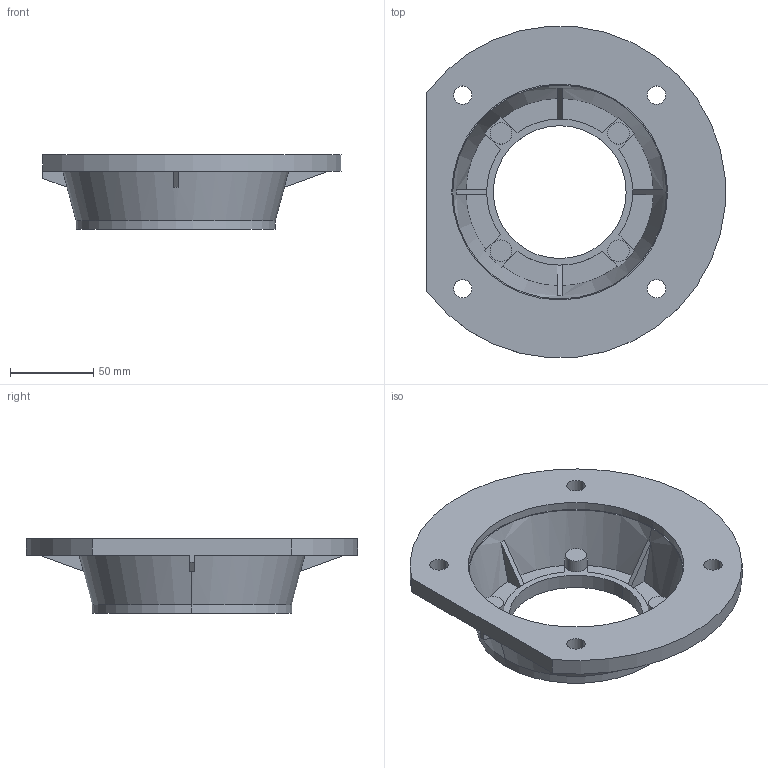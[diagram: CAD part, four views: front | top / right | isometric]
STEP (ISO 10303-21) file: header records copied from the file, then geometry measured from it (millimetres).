
FILE_DESCRIPTION(/* description */ (''),/* implementation_level */ '2;1');
FILE_NAME(/* name */ '3_FLANGIA (CAMPANA) LATERALE FC BA52',/* time_stamp */ '2025-10-22T11:44:03+02:00',/* author */ (''),/* organization */ (''),/* preprocessor_version */ 'ST-DEVELOPER v19.2',/* originating_system */ 'Rhino 8.23',/* authorisation */ '');
FILE_SCHEMA (('CONFIG_CONTROL_DESIGN'));
Length unit declared in the file: millimetre
Products named in the file (2): Document; BFUA52FC
Bounding box: 179.63 x 199.57 x 45 mm (x, y, z)
Volume: 258793 mm3; surface area: 86880.2 mm2
Topology: 1 solids, 1 shells, 81 faces, 213 edges, 140 vertices
Faces by surface type: plane 46, cylinder 27, bspline 8
Entity records: 3557 total; most frequent: CARTESIAN_POINT 904, ORIENTED_EDGE 426, DIRECTION 251, EDGE_CURVE 213, AXIS2_PLACEMENT_3D 162, VERTEX_POINT 140, B_SPLINE_CURVE_WITH_KNOTS 122, EDGE_LOOP 97
